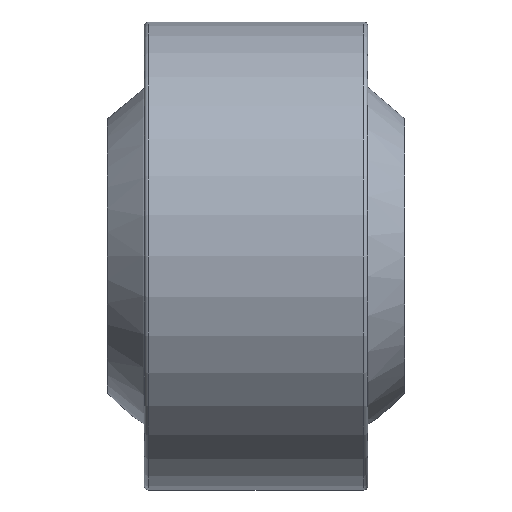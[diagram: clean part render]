
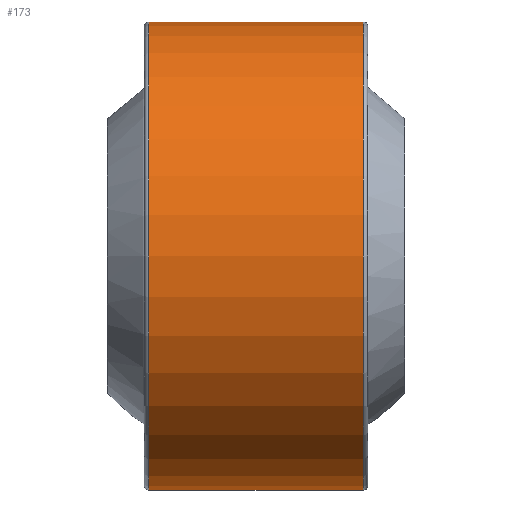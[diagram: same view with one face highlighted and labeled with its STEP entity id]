
A CAD part, front view. The second image highlights one B-rep face of the part: STEP entity #173.
In plain terms, the highlighted cylindrical face has radius 11 mm (diameter 22 mm), a full revolution.
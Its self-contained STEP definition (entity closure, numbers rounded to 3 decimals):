
#173 = ADVANCED_FACE( '', ( #193, #194 ), #195, .T. );
#193 = FACE_OUTER_BOUND( '', #224, .T. );
#194 = FACE_OUTER_BOUND( '', #225, .T. );
#195 = CYLINDRICAL_SURFACE( '', #226, 11. );
#224 = EDGE_LOOP( '', ( #262 ) );
#225 = EDGE_LOOP( '', ( #263 ) );
#226 = AXIS2_PLACEMENT_3D( '', #264, #265, #266 );
#262 = ORIENTED_EDGE( '', *, *, #297, .T. );
#263 = ORIENTED_EDGE( '', *, *, #296, .F. );
#264 = CARTESIAN_POINT( '', ( 5.25, 0., 0. ) );
#265 = DIRECTION( '', ( -1., 0., 0. ) );
#266 = DIRECTION( '', ( 0., 0., -1. ) );
#296 = EDGE_CURVE( '', #310, #310, #311, .T. );
#297 = EDGE_CURVE( '', #312, #312, #313, .T. );
#310 = VERTEX_POINT( '', #330 );
#311 = CIRCLE( '', #331, 11. );
#312 = VERTEX_POINT( '', #332 );
#313 = CIRCLE( '', #333, 11. );
#330 = CARTESIAN_POINT( '', ( 5.05, 0., -11. ) );
#331 = AXIS2_PLACEMENT_3D( '', #354, #355, #356 );
#332 = CARTESIAN_POINT( '', ( -5.05, 0., -11. ) );
#333 = AXIS2_PLACEMENT_3D( '', #357, #358, #359 );
#354 = CARTESIAN_POINT( '', ( 5.05, 0., 0. ) );
#355 = DIRECTION( '', ( 1., 0., 0. ) );
#356 = DIRECTION( '', ( 0., 0., -1. ) );
#357 = CARTESIAN_POINT( '', ( -5.05, 0., 0. ) );
#358 = DIRECTION( '', ( 1., 0., 0. ) );
#359 = DIRECTION( '', ( 0., 0., -1. ) );
